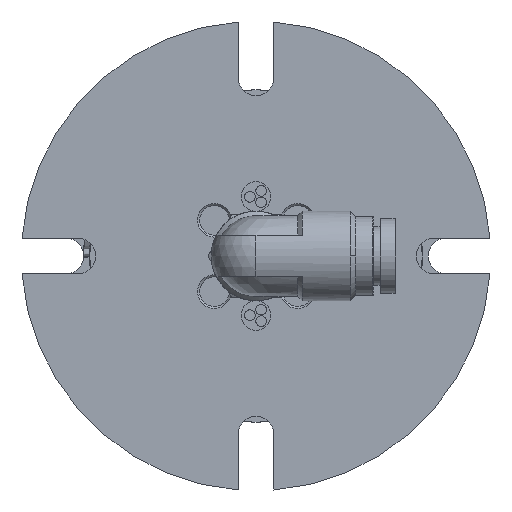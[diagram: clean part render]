
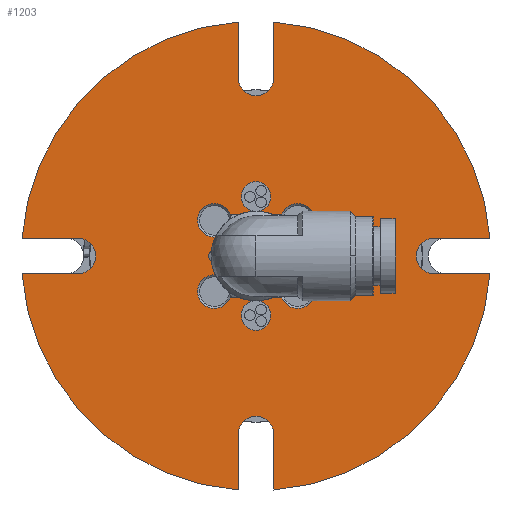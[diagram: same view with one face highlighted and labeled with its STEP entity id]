
A CAD part, left-side view. The second image highlights one B-rep face of the part: STEP entity #1203.
In plain terms, the highlighted planar face has unit normal (-1, 0, 0).
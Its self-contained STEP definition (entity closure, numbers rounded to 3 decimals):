
#921=FACE_BOUND('',#2389,.T.);
#922=FACE_BOUND('',#2390,.T.);
#923=FACE_BOUND('',#2391,.T.);
#924=FACE_BOUND('',#2392,.T.);
#1203=ADVANCED_FACE('',(#921,#922,#923,#924),#1724,.F.);
#1724=PLANE('',#8367);
#2389=EDGE_LOOP('',(#3794));
#2390=EDGE_LOOP('',(#3795));
#2391=EDGE_LOOP('',(#3796,#3797,#3798,#3799,#3800,#3801,#3802,#3803,#3804,
#3805,#3806,#3807,#3808,#3809,#3810,#3811));
#2392=EDGE_LOOP('',(#3812,#3813,#3814,#3815,#3816,#3817,#3818,#3819,#3820,
#3821,#3822));
#3082=LINE('',#10965,#3400);
#3083=LINE('',#10970,#3401);
#3084=LINE('',#10974,#3402);
#3085=LINE('',#10978,#3403);
#3086=LINE('',#10982,#3404);
#3087=LINE('',#10986,#3405);
#3088=LINE('',#10990,#3406);
#3089=LINE('',#10994,#3407);
#3400=VECTOR('',#9118,1.);
#3401=VECTOR('',#9121,1.);
#3402=VECTOR('',#9124,1.);
#3403=VECTOR('',#9127,1.);
#3404=VECTOR('',#9130,1.);
#3405=VECTOR('',#9133,1.);
#3406=VECTOR('',#9136,1.);
#3407=VECTOR('',#9139,1.);
#3794=ORIENTED_EDGE('',*,*,#6911,.F.);
#3795=ORIENTED_EDGE('',*,*,#6912,.F.);
#3796=ORIENTED_EDGE('',*,*,#6913,.T.);
#3797=ORIENTED_EDGE('',*,*,#6914,.T.);
#3798=ORIENTED_EDGE('',*,*,#6915,.T.);
#3799=ORIENTED_EDGE('',*,*,#6916,.T.);
#3800=ORIENTED_EDGE('',*,*,#6917,.T.);
#3801=ORIENTED_EDGE('',*,*,#6918,.T.);
#3802=ORIENTED_EDGE('',*,*,#6919,.T.);
#3803=ORIENTED_EDGE('',*,*,#6920,.T.);
#3804=ORIENTED_EDGE('',*,*,#6921,.T.);
#3805=ORIENTED_EDGE('',*,*,#6922,.T.);
#3806=ORIENTED_EDGE('',*,*,#6923,.T.);
#3807=ORIENTED_EDGE('',*,*,#6924,.T.);
#3808=ORIENTED_EDGE('',*,*,#6925,.T.);
#3809=ORIENTED_EDGE('',*,*,#6926,.T.);
#3810=ORIENTED_EDGE('',*,*,#6927,.T.);
#3811=ORIENTED_EDGE('',*,*,#6928,.T.);
#3812=ORIENTED_EDGE('',*,*,#6929,.F.);
#3813=ORIENTED_EDGE('',*,*,#6930,.T.);
#3814=ORIENTED_EDGE('',*,*,#6931,.T.);
#3815=ORIENTED_EDGE('',*,*,#6932,.F.);
#3816=ORIENTED_EDGE('',*,*,#6933,.F.);
#3817=ORIENTED_EDGE('',*,*,#6934,.F.);
#3818=ORIENTED_EDGE('',*,*,#6935,.F.);
#3819=ORIENTED_EDGE('',*,*,#6936,.F.);
#3820=ORIENTED_EDGE('',*,*,#6937,.F.);
#3821=ORIENTED_EDGE('',*,*,#6938,.F.);
#3822=ORIENTED_EDGE('',*,*,#6939,.T.);
#6112=VERTEX_POINT('',#10962);
#6113=VERTEX_POINT('',#10964);
#6114=VERTEX_POINT('',#10966);
#6115=VERTEX_POINT('',#10967);
#6116=VERTEX_POINT('',#10969);
#6117=VERTEX_POINT('',#10971);
#6118=VERTEX_POINT('',#10973);
#6119=VERTEX_POINT('',#10975);
#6120=VERTEX_POINT('',#10977);
#6121=VERTEX_POINT('',#10979);
#6122=VERTEX_POINT('',#10981);
#6123=VERTEX_POINT('',#10983);
#6124=VERTEX_POINT('',#10985);
#6125=VERTEX_POINT('',#10987);
#6126=VERTEX_POINT('',#10989);
#6127=VERTEX_POINT('',#10991);
#6128=VERTEX_POINT('',#10993);
#6129=VERTEX_POINT('',#10995);
#6130=VERTEX_POINT('',#10998);
#6131=VERTEX_POINT('',#10999);
#6132=VERTEX_POINT('',#11001);
#6133=VERTEX_POINT('',#11003);
#6134=VERTEX_POINT('',#11005);
#6135=VERTEX_POINT('',#11007);
#6136=VERTEX_POINT('',#11009);
#6137=VERTEX_POINT('',#11011);
#6138=VERTEX_POINT('',#11013);
#6139=VERTEX_POINT('',#11015);
#6140=VERTEX_POINT('',#11017);
#6911=EDGE_CURVE('',#6112,#6112,#8059,.T.);
#6912=EDGE_CURVE('',#6113,#6113,#8060,.T.);
#6913=EDGE_CURVE('',#6114,#6115,#3082,.T.);
#6914=EDGE_CURVE('',#6115,#6116,#8061,.T.);
#6915=EDGE_CURVE('',#6116,#6117,#3083,.T.);
#6916=EDGE_CURVE('',#6117,#6118,#8062,.T.);
#6917=EDGE_CURVE('',#6118,#6119,#3084,.T.);
#6918=EDGE_CURVE('',#6119,#6120,#8063,.T.);
#6919=EDGE_CURVE('',#6120,#6121,#3085,.T.);
#6920=EDGE_CURVE('',#6121,#6122,#8064,.T.);
#6921=EDGE_CURVE('',#6122,#6123,#3086,.T.);
#6922=EDGE_CURVE('',#6123,#6124,#8065,.T.);
#6923=EDGE_CURVE('',#6124,#6125,#3087,.T.);
#6924=EDGE_CURVE('',#6125,#6126,#8066,.T.);
#6925=EDGE_CURVE('',#6126,#6127,#3088,.T.);
#6926=EDGE_CURVE('',#6127,#6128,#8067,.T.);
#6927=EDGE_CURVE('',#6128,#6129,#3089,.T.);
#6928=EDGE_CURVE('',#6129,#6114,#8068,.T.);
#6929=EDGE_CURVE('',#6130,#6131,#8069,.T.);
#6930=EDGE_CURVE('',#6130,#6132,#8070,.T.);
#6931=EDGE_CURVE('',#6132,#6133,#8071,.T.);
#6932=EDGE_CURVE('',#6134,#6133,#8072,.T.);
#6933=EDGE_CURVE('',#6135,#6134,#8073,.T.);
#6934=EDGE_CURVE('',#6136,#6135,#8074,.T.);
#6935=EDGE_CURVE('',#6137,#6136,#8075,.T.);
#6936=EDGE_CURVE('',#6138,#6137,#8076,.T.);
#6937=EDGE_CURVE('',#6139,#6138,#8077,.T.);
#6938=EDGE_CURVE('',#6140,#6139,#8078,.T.);
#6939=EDGE_CURVE('',#6140,#6131,#8079,.T.);
#8059=CIRCLE('',#8346,2.5);
#8060=CIRCLE('',#8347,2.5);
#8061=CIRCLE('',#8348,3.);
#8062=CIRCLE('',#8349,39.5);
#8063=CIRCLE('',#8350,3.);
#8064=CIRCLE('',#8351,39.5);
#8065=CIRCLE('',#8352,3.);
#8066=CIRCLE('',#8353,39.5);
#8067=CIRCLE('',#8354,3.);
#8068=CIRCLE('',#8355,39.5);
#8069=CIRCLE('',#8356,7.);
#8070=CIRCLE('',#8357,2.836);
#8071=CIRCLE('',#8358,7.);
#8072=CIRCLE('',#8359,7.);
#8073=CIRCLE('',#8360,2.836);
#8074=CIRCLE('',#8361,7.);
#8075=CIRCLE('',#8362,7.);
#8076=CIRCLE('',#8363,2.836);
#8077=CIRCLE('',#8364,7.);
#8078=CIRCLE('',#8365,7.);
#8079=CIRCLE('',#8366,2.836);
#8346=AXIS2_PLACEMENT_3D('',#10961,#9114,#9115);
#8347=AXIS2_PLACEMENT_3D('',#10963,#9116,#9117);
#8348=AXIS2_PLACEMENT_3D('',#10968,#9119,#9120);
#8349=AXIS2_PLACEMENT_3D('',#10972,#9122,#9123);
#8350=AXIS2_PLACEMENT_3D('',#10976,#9125,#9126);
#8351=AXIS2_PLACEMENT_3D('',#10980,#9128,#9129);
#8352=AXIS2_PLACEMENT_3D('',#10984,#9131,#9132);
#8353=AXIS2_PLACEMENT_3D('',#10988,#9134,#9135);
#8354=AXIS2_PLACEMENT_3D('',#10992,#9137,#9138);
#8355=AXIS2_PLACEMENT_3D('',#10996,#9140,#9141);
#8356=AXIS2_PLACEMENT_3D('',#10997,#9142,#9143);
#8357=AXIS2_PLACEMENT_3D('',#11000,#9144,#9145);
#8358=AXIS2_PLACEMENT_3D('',#11002,#9146,#9147);
#8359=AXIS2_PLACEMENT_3D('',#11004,#9148,#9149);
#8360=AXIS2_PLACEMENT_3D('',#11006,#9150,#9151);
#8361=AXIS2_PLACEMENT_3D('',#11008,#9152,#9153);
#8362=AXIS2_PLACEMENT_3D('',#11010,#9154,#9155);
#8363=AXIS2_PLACEMENT_3D('',#11012,#9156,#9157);
#8364=AXIS2_PLACEMENT_3D('',#11014,#9158,#9159);
#8365=AXIS2_PLACEMENT_3D('',#11016,#9160,#9161);
#8366=AXIS2_PLACEMENT_3D('',#11018,#9162,#9163);
#8367=AXIS2_PLACEMENT_3D('',#11019,#9164,#9165);
#9114=DIRECTION('',(-1.,0.,0.));
#9115=DIRECTION('',(0.,0.,1.));
#9116=DIRECTION('',(-1.,0.,0.));
#9117=DIRECTION('',(0.,0.,1.));
#9118=DIRECTION('',(0.,1.,0.));
#9119=DIRECTION('',(1.,0.,0.));
#9120=DIRECTION('',(0.,0.,1.));
#9121=DIRECTION('',(0.,-1.,0.));
#9122=DIRECTION('',(-1.,0.,0.));
#9123=DIRECTION('',(0.,0.,1.));
#9124=DIRECTION('',(0.,0.,-1.));
#9125=DIRECTION('',(1.,0.,0.));
#9126=DIRECTION('',(0.,0.,1.));
#9127=DIRECTION('',(0.,0.,1.));
#9128=DIRECTION('',(-1.,0.,0.));
#9129=DIRECTION('',(0.,0.,1.));
#9130=DIRECTION('',(0.,-1.,0.));
#9131=DIRECTION('',(1.,0.,0.));
#9132=DIRECTION('',(0.,0.,1.));
#9133=DIRECTION('',(0.,1.,0.));
#9134=DIRECTION('',(-1.,0.,0.));
#9135=DIRECTION('',(0.,0.,1.));
#9136=DIRECTION('',(0.,0.,1.));
#9137=DIRECTION('',(1.,0.,0.));
#9138=DIRECTION('',(0.,0.,1.));
#9139=DIRECTION('',(0.,0.,-1.));
#9140=DIRECTION('',(-1.,0.,0.));
#9141=DIRECTION('',(0.,0.,1.));
#9142=DIRECTION('',(-1.,0.,0.));
#9143=DIRECTION('',(0.,1.,0.));
#9144=DIRECTION('',(1.,0.,0.));
#9145=DIRECTION('',(0.,0.,-1.));
#9146=DIRECTION('',(1.,0.,0.));
#9147=DIRECTION('',(0.,-1.,0.));
#9148=DIRECTION('',(-1.,0.,0.));
#9149=DIRECTION('',(0.,1.,0.));
#9150=DIRECTION('',(-1.,0.,0.));
#9151=DIRECTION('',(0.,0.,-1.));
#9152=DIRECTION('',(-1.,0.,0.));
#9153=DIRECTION('',(0.,1.,0.));
#9154=DIRECTION('',(-1.,0.,0.));
#9155=DIRECTION('',(0.,1.,0.));
#9156=DIRECTION('',(-1.,0.,0.));
#9157=DIRECTION('',(0.,0.,-1.));
#9158=DIRECTION('',(-1.,0.,0.));
#9159=DIRECTION('',(0.,1.,0.));
#9160=DIRECTION('',(-1.,0.,0.));
#9161=DIRECTION('',(0.,1.,0.));
#9162=DIRECTION('',(1.,0.,0.));
#9163=DIRECTION('',(0.,0.,-1.));
#9164=DIRECTION('',(1.,0.,0.));
#9165=DIRECTION('',(0.,0.,1.));
#10961=CARTESIAN_POINT('',(0.,0.,-10.));
#10962=CARTESIAN_POINT('',(0.,0.,-7.5));
#10963=CARTESIAN_POINT('',(0.,0.,10.));
#10964=CARTESIAN_POINT('',(0.,0.,12.5));
#10965=CARTESIAN_POINT('',(0.,-39.386,-3.));
#10966=CARTESIAN_POINT('',(0.,-39.386,-3.));
#10967=CARTESIAN_POINT('',(0.,-30.,-3.));
#10968=CARTESIAN_POINT('',(0.,-30.,0.));
#10969=CARTESIAN_POINT('',(0.,-30.,3.));
#10970=CARTESIAN_POINT('',(0.,-30.,3.));
#10971=CARTESIAN_POINT('',(0.,-39.386,3.));
#10972=CARTESIAN_POINT('',(0.,0.,0.));
#10973=CARTESIAN_POINT('',(0.,-3.,39.386));
#10974=CARTESIAN_POINT('',(0.,-3.,39.386));
#10975=CARTESIAN_POINT('',(0.,-3.,30.));
#10976=CARTESIAN_POINT('',(0.,0.,30.));
#10977=CARTESIAN_POINT('',(0.,3.,30.));
#10978=CARTESIAN_POINT('',(0.,3.,30.));
#10979=CARTESIAN_POINT('',(0.,3.,39.386));
#10980=CARTESIAN_POINT('',(0.,0.,0.));
#10981=CARTESIAN_POINT('',(0.,39.386,3.));
#10982=CARTESIAN_POINT('',(0.,39.386,3.));
#10983=CARTESIAN_POINT('',(0.,30.,3.));
#10984=CARTESIAN_POINT('',(0.,30.,0.));
#10985=CARTESIAN_POINT('',(0.,30.,-3.));
#10986=CARTESIAN_POINT('',(0.,30.,-3.));
#10987=CARTESIAN_POINT('',(0.,39.386,-3.));
#10988=CARTESIAN_POINT('',(0.,0.,0.));
#10989=CARTESIAN_POINT('',(0.,3.,-39.386));
#10990=CARTESIAN_POINT('',(0.,3.,-39.386));
#10991=CARTESIAN_POINT('',(0.,3.,-30.));
#10992=CARTESIAN_POINT('',(0.,0.,-30.));
#10993=CARTESIAN_POINT('',(0.,-3.,-30.));
#10994=CARTESIAN_POINT('',(0.,-3.,-30.));
#10995=CARTESIAN_POINT('',(0.,-3.,-39.386));
#10996=CARTESIAN_POINT('',(0.,0.,0.));
#10997=CARTESIAN_POINT('',(0.,0.,0.));
#10998=CARTESIAN_POINT('',(0.,-6.181,-3.285));
#10999=CARTESIAN_POINT('',(0.,-6.181,3.285));
#11000=CARTESIAN_POINT('',(0.,-7.,-6.));
#11001=CARTESIAN_POINT('',(0.,-4.191,-5.606));
#11002=CARTESIAN_POINT('',(0.,0.,0.));
#11003=CARTESIAN_POINT('',(0.,0.,-7.));
#11004=CARTESIAN_POINT('',(0.,0.,0.));
#11005=CARTESIAN_POINT('',(0.,4.191,-5.606));
#11006=CARTESIAN_POINT('',(0.,7.,-6.));
#11007=CARTESIAN_POINT('',(0.,6.181,-3.285));
#11008=CARTESIAN_POINT('',(0.,0.,0.));
#11009=CARTESIAN_POINT('',(0.,7.,0.));
#11010=CARTESIAN_POINT('',(0.,0.,0.));
#11011=CARTESIAN_POINT('',(0.,6.181,3.285));
#11012=CARTESIAN_POINT('',(0.,7.,6.));
#11013=CARTESIAN_POINT('',(0.,4.191,5.606));
#11014=CARTESIAN_POINT('',(0.,0.,0.));
#11015=CARTESIAN_POINT('',(0.,0.,7.));
#11016=CARTESIAN_POINT('',(0.,0.,0.));
#11017=CARTESIAN_POINT('',(0.,-4.191,5.606));
#11018=CARTESIAN_POINT('',(0.,-7.,6.));
#11019=CARTESIAN_POINT('',(0.,-30.,0.));
